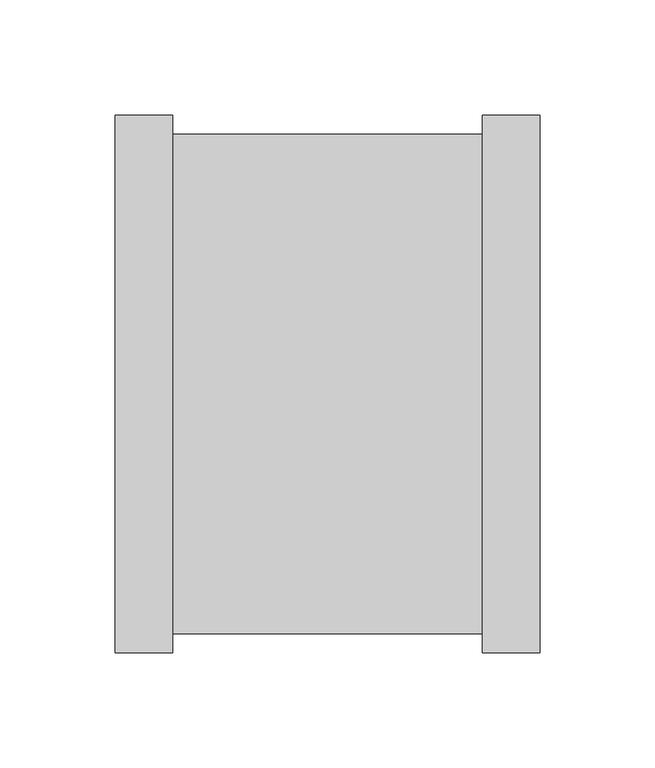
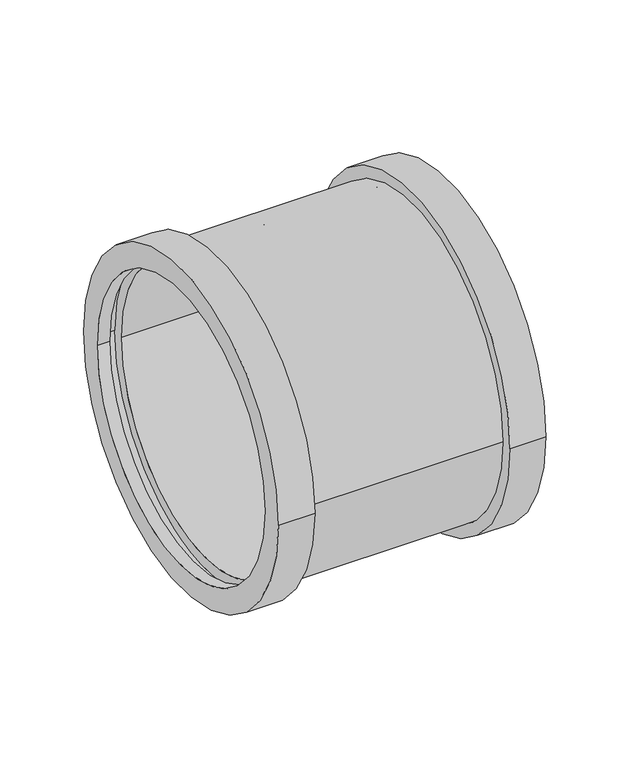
"""IFC4 building model written with IfcOpenShell, lengths in millimetres: pipe fitting geometry, AWADUKT PP Union DSM : Blue No PID."""

from ifc_helpers import new_model, si_unit, frame, origin, place, context, project, spatial, polyline, circle_curve, source, transform, mapped, element, save
from ifc_brep_helpers import plane_surface, cylinder_surface, revolved_surface, advanced_brep


def pipe_fitting_b5a722ff(model_context):
    return source(origin(), model_context, "Body", "AdvancedBrep", [
        advanced_brep(
        [(-73.35, -100.0, 0.0), (-73.35, 100.0, 0.0), (0.0, 100.0, 0.0), (0.0, -100.0, 0.0), (-81.65, -108.3, 0.0), (-81.65, 108.3, 0.0), (-73.35, 108.3, 0.0), (-73.35, -108.3, 0.0), (-89.95, -100.0, 0.0), (-89.95, 100.0, 0.0), (-81.65, 100.0, 0.0), (-81.65, -100.0, 0.0), (-65.05, -116.6, 0.0), (-65.05, 116.6, 0.0), (-89.95, 116.6, 0.0), (-89.95, -116.6, 0.0), (69.55, -108.3, 0.0), (69.55, 108.3, 0.0), (-65.05, 108.3, 0.0), (-65.05, -108.3, 0.0), (94.45, -116.6, 0.0), (94.45, 116.6, 0.0), (69.55, 116.6, 0.0), (69.55, -116.6, 0.0), (86.15, -100.0, 0.0), (86.15, 100.0, 0.0), (94.45, 100.0, 0.0), (94.45, -100.0, 0.0), (77.85, -108.3, 0.0), (77.85, 108.3, 0.0), (86.15, 108.3, 0.0), (86.15, -108.3, 0.0), (4.5, -100.0, 0.0), (4.5, 100.0, 0.0), (77.85, 100.0, 0.0), (77.85, -100.0, 0.0), (0.0, -91.7, 0.0), (0.0, 91.7, 0.0), (4.5, 91.7, 0.0), (4.5, -91.7, 0.0)],
        [
            (0, 1, circle_curve(frame((-73.35, 0.0, 0.0), z_axis=(-1.0, 0.0, 0.0), x_axis=(0.0, 1.0, 0.0)), 100.0)),
            (1, 2),
            (2, 3, circle_curve(frame((0.0, 0.0, 0.0), z_axis=(1.0, 0.0, 0.0), x_axis=(0.0, 1.0, 0.0)), 100.0)),
            (3, 0),
            (4, 5, circle_curve(frame((-81.65, 0.0, 0.0), z_axis=(-1.0, 0.0, 0.0), x_axis=(0.0, 1.0, 0.0)), 108.3)),
            (5, 6),
            (6, 7, circle_curve(frame((-73.35, 0.0, 0.0), z_axis=(1.0, 0.0, 0.0), x_axis=(0.0, 1.0, 0.0)), 108.3)),
            (7, 4),
            (8, 9, circle_curve(frame((-89.95, 0.0, 0.0), z_axis=(-1.0, 0.0, 0.0), x_axis=(0.0, 1.0, 0.0)), 100.0)),
            (9, 10),
            (10, 11, circle_curve(frame((-81.65, 0.0, 0.0), z_axis=(1.0, 0.0, 0.0), x_axis=(0.0, 1.0, 0.0)), 100.0)),
            (11, 8),
            (12, 13, circle_curve(frame((-65.05, 0.0, 0.0), z_axis=(-1.0, 0.0, 0.0), x_axis=(0.0, 1.0, 0.0)), 116.6)),
            (13, 14),
            (14, 15, circle_curve(frame((-89.95, 0.0, 0.0), z_axis=(1.0, 0.0, 0.0), x_axis=(0.0, 1.0, 0.0)), 116.6)),
            (15, 12),
            (16, 17, circle_curve(frame((69.55, 0.0, 0.0), z_axis=(-1.0, 0.0, 0.0), x_axis=(0.0, 1.0, 0.0)), 108.3)),
            (17, 18),
            (18, 19, circle_curve(frame((-65.05, 0.0, 0.0), z_axis=(1.0, 0.0, 0.0), x_axis=(0.0, 1.0, 0.0)), 108.3)),
            (19, 16),
            (20, 21, circle_curve(frame((94.45, 0.0, 0.0), z_axis=(-1.0, 0.0, 0.0), x_axis=(0.0, 1.0, 0.0)), 116.6)),
            (21, 22),
            (22, 23, circle_curve(frame((69.55, 0.0, 0.0), z_axis=(1.0, 0.0, 0.0), x_axis=(0.0, 1.0, 0.0)), 116.6)),
            (23, 20),
            (24, 25, circle_curve(frame((86.15, 0.0, 0.0), z_axis=(-1.0, 0.0, 0.0), x_axis=(0.0, 1.0, 0.0)), 100.0)),
            (25, 26),
            (26, 27, circle_curve(frame((94.45, 0.0, 0.0), z_axis=(1.0, 0.0, 0.0), x_axis=(0.0, 1.0, 0.0)), 100.0)),
            (27, 24),
            (28, 29, circle_curve(frame((77.85, 0.0, 0.0), z_axis=(-1.0, 0.0, 0.0), x_axis=(0.0, 1.0, 0.0)), 108.3)),
            (29, 30),
            (30, 31, circle_curve(frame((86.15, 0.0, 0.0), z_axis=(1.0, 0.0, 0.0), x_axis=(0.0, 1.0, 0.0)), 108.3)),
            (31, 28),
            (32, 33, circle_curve(frame((4.5, 0.0, 0.0), z_axis=(-1.0, 0.0, 0.0), x_axis=(0.0, 1.0, 0.0)), 100.0)),
            (33, 34),
            (34, 35, circle_curve(frame((77.85, 0.0, 0.0), z_axis=(1.0, 0.0, 0.0), x_axis=(0.0, 1.0, 0.0)), 100.0)),
            (35, 32),
            (36, 37, circle_curve(frame((0.0, 0.0, 0.0), z_axis=(-1.0, 0.0, 0.0), x_axis=(0.0, 1.0, 0.0)), 91.7)),
            (37, 38),
            (38, 39, circle_curve(frame((4.5, 0.0, 0.0), z_axis=(1.0, 0.0, 0.0), x_axis=(0.0, 1.0, 0.0)), 91.7)),
            (39, 36),
            (1, 0, circle_curve(frame((-73.35, 0.0, 0.0), z_axis=(-1.0, 0.0, 0.0), x_axis=(0.0, -1.0, 0.0)), 100.0)),
            (3, 2, circle_curve(frame((0.0, 0.0, 0.0), z_axis=(1.0, 0.0, 0.0), x_axis=(0.0, -1.0, 0.0)), 100.0)),
            (6, 7, circle_curve(frame((-73.35, 0.0, 0.0), z_axis=(-1.0, 0.0, 0.0), x_axis=(0.0, -1.0, 0.0)), 108.3)),
            (5, 4, circle_curve(frame((-81.65, 0.0, 0.0), z_axis=(-1.0, 0.0, 0.0), x_axis=(0.0, -1.0, 0.0)), 108.3)),
            (10, 11, circle_curve(frame((-81.65, 0.0, 0.0), z_axis=(-1.0, 0.0, 0.0), x_axis=(0.0, -1.0, 0.0)), 100.0)),
            (9, 8, circle_curve(frame((-89.95, 0.0, 0.0), z_axis=(-1.0, 0.0, 0.0), x_axis=(0.0, -1.0, 0.0)), 100.0)),
            (14, 15, circle_curve(frame((-89.95, 0.0, 0.0), z_axis=(-1.0, 0.0, 0.0), x_axis=(0.0, -1.0, 0.0)), 116.6)),
            (13, 12, circle_curve(frame((-65.05, 0.0, 0.0), z_axis=(-1.0, 0.0, 0.0), x_axis=(0.0, -1.0, 0.0)), 116.6)),
            (18, 19, circle_curve(frame((-65.05, 0.0, 0.0), z_axis=(-1.0, 0.0, 0.0), x_axis=(0.0, -1.0, 0.0)), 108.3)),
            (17, 16, circle_curve(frame((69.55, 0.0, 0.0), z_axis=(-1.0, 0.0, 0.0), x_axis=(0.0, -1.0, 0.0)), 108.3)),
            (22, 23, circle_curve(frame((69.55, 0.0, 0.0), z_axis=(-1.0, 0.0, 0.0), x_axis=(0.0, -1.0, 0.0)), 116.6)),
            (21, 20, circle_curve(frame((94.45, 0.0, 0.0), z_axis=(-1.0, 0.0, 0.0), x_axis=(0.0, -1.0, 0.0)), 116.6)),
            (26, 27, circle_curve(frame((94.45, 0.0, 0.0), z_axis=(-1.0, 0.0, 0.0), x_axis=(0.0, -1.0, 0.0)), 100.0)),
            (25, 24, circle_curve(frame((86.15, 0.0, 0.0), z_axis=(-1.0, 0.0, 0.0), x_axis=(0.0, -1.0, 0.0)), 100.0)),
            (30, 31, circle_curve(frame((86.15, 0.0, 0.0), z_axis=(-1.0, 0.0, 0.0), x_axis=(0.0, -1.0, 0.0)), 108.3)),
            (29, 28, circle_curve(frame((77.85, 0.0, 0.0), z_axis=(-1.0, 0.0, 0.0), x_axis=(0.0, -1.0, 0.0)), 108.3)),
            (34, 35, circle_curve(frame((77.85, 0.0, 0.0), z_axis=(-1.0, 0.0, 0.0), x_axis=(0.0, -1.0, 0.0)), 100.0)),
            (33, 32, circle_curve(frame((4.5, 0.0, 0.0), z_axis=(-1.0, 0.0, 0.0), x_axis=(0.0, -1.0, 0.0)), 100.0)),
            (38, 39, circle_curve(frame((4.5, 0.0, 0.0), z_axis=(-1.0, 0.0, 0.0), x_axis=(0.0, -1.0, 0.0)), 91.7)),
            (37, 36, circle_curve(frame((0.0, 0.0, 0.0), z_axis=(-1.0, 0.0, 0.0), x_axis=(0.0, -1.0, 0.0)), 91.7)),
        ],
        [
            revolved_surface(polyline([(0.0, 100.0, 0.0), (-73.35, 100.0, 0.0)]), (2.25, 0.0, 0.0), (1.0, 0.0, 0.0)),
            revolved_surface(polyline([(-73.35, 108.3, 0.0), (-81.65, 108.3, 0.0)]), (2.25, 0.0, 0.0), (1.0, 0.0, 0.0)),
            revolved_surface(polyline([(-81.65, 100.0, 0.0), (-89.95, 100.0, 0.0)]), (2.25, 0.0, 0.0), (1.0, 0.0, 0.0)),
            cylinder_surface(frame((2.25, 0.0, 0.0), z_axis=(1.0, 0.0, 0.0), x_axis=(0.0, 1.0, 0.0)), 116.6),
            cylinder_surface(frame((2.25, 0.0, 0.0), z_axis=(1.0, 0.0, 0.0), x_axis=(0.0, 1.0, 0.0)), 108.3),
            revolved_surface(polyline([(94.45, 100.0, 0.0), (86.15, 100.0, 0.0)]), (2.25, 0.0, 0.0), (1.0, 0.0, 0.0)),
            revolved_surface(polyline([(86.15, 108.3, 0.0), (77.85, 108.3, 0.0)]), (2.25, 0.0, 0.0), (1.0, 0.0, 0.0)),
            revolved_surface(polyline([(77.85, 100.0, 0.0), (4.5, 100.0, 0.0)]), (2.25, 0.0, 0.0), (1.0, 0.0, 0.0)),
            revolved_surface(polyline([(4.5, 91.7, 0.0), (0.0, 91.7, 0.0)]), (2.25, 0.0, 0.0), (1.0, 0.0, 0.0)),
            revolved_surface(polyline([(0.0, -100.0, 0.0), (-73.35, -100.0, 0.0)]), (2.25, 0.0, 0.0), (1.0, 0.0, 0.0)),
            plane_surface(frame((-73.35, 0.0, 0.0), z_axis=(-1.0, 0.0, 0.0), x_axis=(0.0, -1.0, 0.0))),
            revolved_surface(polyline([(-73.35, -108.3, 0.0), (-81.65, -108.3, 0.0)]), (2.25, 0.0, 0.0), (1.0, 0.0, 0.0)),
            plane_surface(frame((-81.65, 0.0, 0.0), z_axis=(1.0, 0.0, 0.0), x_axis=(0.0, -1.0, 0.0))),
            revolved_surface(polyline([(-81.65, -100.0, 0.0), (-89.95, -100.0, 0.0)]), (2.25, 0.0, 0.0), (1.0, 0.0, 0.0)),
            plane_surface(frame((-89.95, 0.0, 0.0), z_axis=(-1.0, 0.0, 0.0), x_axis=(0.0, -1.0, 0.0))),
            cylinder_surface(frame((2.25, 0.0, 0.0), z_axis=(1.0, 0.0, 0.0), x_axis=(0.0, -1.0, 0.0)), 116.6),
            plane_surface(frame((-65.05, 0.0, 0.0), z_axis=(1.0, 0.0, 0.0), x_axis=(0.0, -1.0, 0.0))),
            cylinder_surface(frame((2.25, 0.0, 0.0), z_axis=(1.0, 0.0, 0.0), x_axis=(0.0, -1.0, 0.0)), 108.3),
            plane_surface(frame((69.55, 0.0, 0.0), z_axis=(-1.0, 0.0, 0.0), x_axis=(0.0, -1.0, 0.0))),
            plane_surface(frame((94.45, 0.0, 0.0), z_axis=(1.0, 0.0, 0.0), x_axis=(0.0, -1.0, 0.0))),
            revolved_surface(polyline([(94.45, -100.0, 0.0), (86.15, -100.0, 0.0)]), (2.25, 0.0, 0.0), (1.0, 0.0, 0.0)),
            plane_surface(frame((86.15, 0.0, 0.0), z_axis=(-1.0, 0.0, 0.0), x_axis=(0.0, -1.0, 0.0))),
            revolved_surface(polyline([(86.15, -108.3, 0.0), (77.85, -108.3, 0.0)]), (2.25, 0.0, 0.0), (1.0, 0.0, 0.0)),
            plane_surface(frame((77.85, 0.0, 0.0), z_axis=(1.0, 0.0, 0.0), x_axis=(0.0, -1.0, 0.0))),
            revolved_surface(polyline([(77.85, -100.0, 0.0), (4.5, -100.0, 0.0)]), (2.25, 0.0, 0.0), (1.0, 0.0, 0.0)),
            plane_surface(frame((4.5, 0.0, 0.0), z_axis=(1.0, 0.0, 0.0), x_axis=(0.0, -1.0, 0.0))),
            revolved_surface(polyline([(4.5, -91.7, 0.0), (0.0, -91.7, 0.0)]), (2.25, 0.0, 0.0), (1.0, 0.0, 0.0)),
            plane_surface(frame((0.0, 0.0, 0.0), z_axis=(-1.0, 0.0, 0.0), x_axis=(0.0, -1.0, 0.0))),
        ],
        [
            (0, [[1, 2, 3, 4]]),
            (1, [[5, 6, 7, 8]]),
            (2, [[9, 10, 11, 12]]),
            (3, [[13, 14, 15, 16]]),
            (4, [[17, 18, 19, 20]]),
            (3, [[21, 22, 23, 24]]),
            (5, [[25, 26, 27, 28]]),
            (6, [[29, 30, 31, 32]]),
            (7, [[33, 34, 35, 36]]),
            (8, [[37, 38, 39, 40]]),
            (9, [[41, -4, 42, -2]]),
            (10, [[43, -7], [-41, -1]]),
            (11, [[44, -8, -43, -6]]),
            (12, [[-44, -5], [45, -11]]),
            (13, [[46, -12, -45, -10]]),
            (14, [[47, -15], [-46, -9]]),
            (15, [[48, -16, -47, -14]]),
            (16, [[-48, -13], [49, -19]]),
            (17, [[50, -20, -49, -18]]),
            (18, [[51, -23], [-50, -17]]),
            (15, [[52, -24, -51, -22]]),
            (19, [[-52, -21], [53, -27]]),
            (20, [[54, -28, -53, -26]]),
            (21, [[55, -31], [-54, -25]]),
            (22, [[56, -32, -55, -30]]),
            (23, [[-56, -29], [57, -35]]),
            (24, [[58, -36, -57, -34]]),
            (25, [[-58, -33], [59, -39]]),
            (26, [[60, -40, -59, -38]]),
            (27, [[-42, -3], [-60, -37]]),
        ],
    ),
    ])


if __name__ == "__main__":
    model = new_model("IFC4")
    model_context = context("Model", 3, world=origin())
    ifc_project = project(units=[si_unit("LENGTHUNIT", "METRE", prefix="MILLI")], contexts=[model_context])
    site = spatial("IfcSite", under=ifc_project)
    building = spatial("IfcBuilding", under=site)
    placement = place(None, origin())
    pipe_fitting_shape = pipe_fitting_b5a722ff(model_context)
    element("IfcPipeFitting", 1, ObjectType="AWADUKT PP Union DSM : Blue No PID", at=placement, inside=building, context=model_context, shape_type="MappedRepresentation", body=[
        mapped(pipe_fitting_shape, transform((0.0, 0.0, 0.0), x_axis=(1.0, 0.0, 0.0), y_axis=(0.0, 1.0, 0.0), z_axis=(0.0, 0.0, 1.0))),
    ])
    save(model, "model.ifc")
